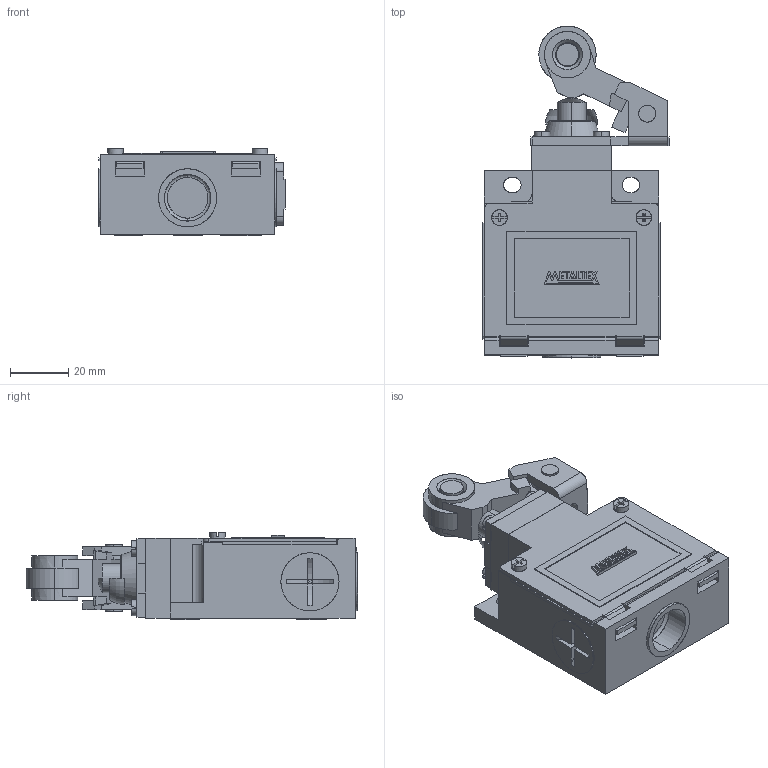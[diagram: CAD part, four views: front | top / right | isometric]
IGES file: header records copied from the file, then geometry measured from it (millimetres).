
Start section: SolidWorks IGES file using analytic representation for surfaces
Global section: file name: D:\X - Arquivos\PROEX\Empresas\P11 - METALTEX\01 - Produtos\IGES\Terceira remessa\TZE21.IGS; native system: SolidWorks 2012; preprocessor: SolidWorks 2012; author: Usuario; date: 180207.114813; units: millimetre
Bounding box: 64 x 114.16 x 30 mm (x, y, z)
Surface area: 24939.5 mm2 (no closed solid volume)
Topology: 0 solids, 0 shells, 488 faces, 4820 edges, 4819 vertices
Faces by surface type: bspline 382, revolution 106
